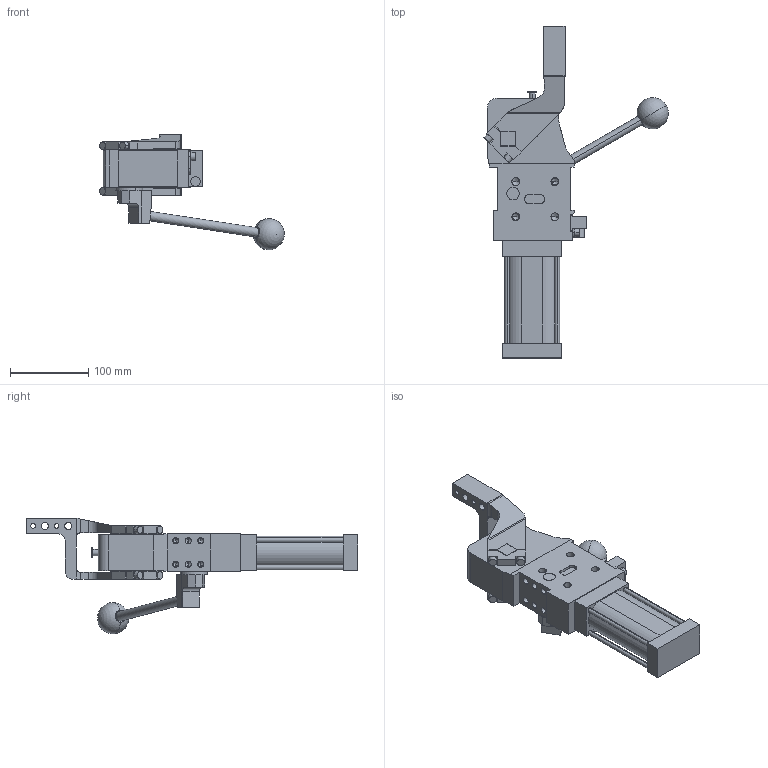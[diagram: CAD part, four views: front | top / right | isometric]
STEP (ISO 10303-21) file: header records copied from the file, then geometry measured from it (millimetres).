
FILE_DESCRIPTION (( 'STEP AP214' ), '1' );
FILE_NAME ('cplm50lbh3ssi1g_75.STEP', '2023-01-26T13:55:24', ( '' ), ( '' ), 'SwSTEP 2.0', 'SolidWorks 2022', '' );
FILE_SCHEMA (( 'AUTOMOTIVE_DESIGN' ));
Length unit declared in the file: millimetre
Products named in the file (5): blocchetto_VEP_0; comando_manuale_cplm_50; meccanica_cplm_50; cplm50lbh3ssi1g_75; leva_sx_offset_45_cpl50
Assembly tree (4 placements, depth 2):
  cplm50lbh3ssi1g_75
    meccanica_cplm_50
    blocchetto_VEP_0
    leva_sx_offset_45_cpl50
    comando_manuale_cplm_50
Bounding box: 235.94 x 424.5 x 148 mm (x, y, z)
Volume: 1483582.8 mm3; surface area: 184927.1 mm2
Topology: 4 solids, 4 shells, 433 faces, 1114 edges, 695 vertices
Faces by surface type: plane 214, cylinder 167, cone 50, sphere 2
Entity records: 14434 total; most frequent: CARTESIAN_POINT 2298, DIRECTION 2278, ORIENTED_EDGE 2126, EDGE_CURVE 1063, AXIS2_PLACEMENT_3D 790, LINE 698, VECTOR 698, VERTEX_POINT 692
